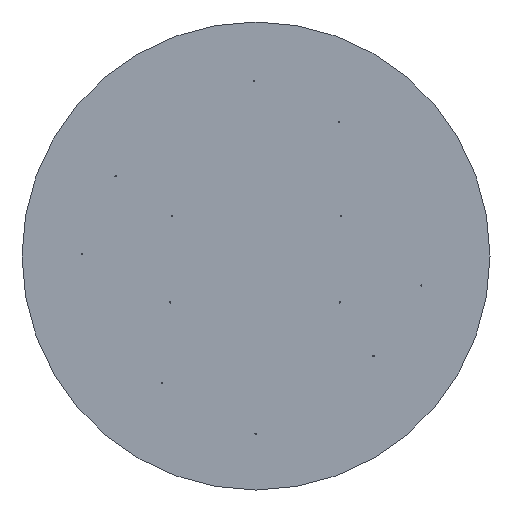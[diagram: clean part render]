
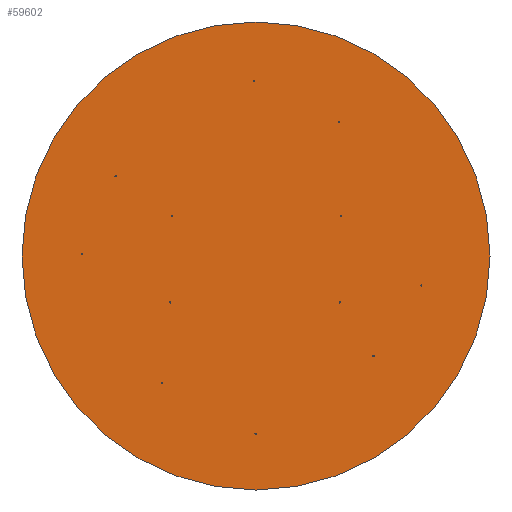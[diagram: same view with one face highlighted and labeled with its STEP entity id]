
A CAD part, front view. The second image highlights one B-rep face of the part: STEP entity #59602.
In plain terms, the highlighted planar face has unit normal (0, -1, 0).
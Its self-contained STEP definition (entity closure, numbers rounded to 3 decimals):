
#350=FACE_BOUND('',#5853,.T.);
#351=FACE_BOUND('',#5854,.T.);
#352=FACE_BOUND('',#5855,.T.);
#353=FACE_BOUND('',#5856,.T.);
#354=FACE_BOUND('',#5857,.T.);
#355=FACE_BOUND('',#5858,.T.);
#356=FACE_BOUND('',#5859,.T.);
#357=FACE_BOUND('',#5860,.T.);
#358=FACE_BOUND('',#5861,.T.);
#359=FACE_BOUND('',#5862,.T.);
#360=FACE_BOUND('',#5863,.T.);
#361=FACE_BOUND('',#5864,.T.);
#557=CIRCLE('',#62417,5.);
#558=CIRCLE('',#62419,5.);
#559=CIRCLE('',#62421,5.);
#560=CIRCLE('',#62423,5.);
#561=CIRCLE('',#62425,5.);
#562=CIRCLE('',#62427,5.);
#563=CIRCLE('',#62429,5.);
#564=CIRCLE('',#62431,5.);
#565=CIRCLE('',#62433,5.);
#566=CIRCLE('',#62435,5.);
#567=CIRCLE('',#62437,5.);
#568=CIRCLE('',#62439,5.);
#576=CIRCLE('',#62805,1975.);
#2884=FACE_OUTER_BOUND('',#5852,.T.);
#5852=EDGE_LOOP('',(#50132));
#5853=EDGE_LOOP('',(#50133));
#5854=EDGE_LOOP('',(#50134));
#5855=EDGE_LOOP('',(#50135));
#5856=EDGE_LOOP('',(#50136));
#5857=EDGE_LOOP('',(#50137));
#5858=EDGE_LOOP('',(#50138));
#5859=EDGE_LOOP('',(#50139));
#5860=EDGE_LOOP('',(#50140));
#5861=EDGE_LOOP('',(#50141));
#5862=EDGE_LOOP('',(#50142));
#5863=EDGE_LOOP('',(#50143));
#5864=EDGE_LOOP('',(#50144));
#26974=VERTEX_POINT('',#89207);
#26975=VERTEX_POINT('',#89211);
#26976=VERTEX_POINT('',#89215);
#26977=VERTEX_POINT('',#89219);
#26978=VERTEX_POINT('',#89223);
#26979=VERTEX_POINT('',#89227);
#26980=VERTEX_POINT('',#89231);
#26981=VERTEX_POINT('',#89235);
#26982=VERTEX_POINT('',#89239);
#26983=VERTEX_POINT('',#89243);
#26984=VERTEX_POINT('',#89247);
#26985=VERTEX_POINT('',#89251);
#27339=VERTEX_POINT('',#90671);
#34465=EDGE_CURVE('',#26974,#26974,#557,.T.);
#34467=EDGE_CURVE('',#26975,#26975,#558,.T.);
#34469=EDGE_CURVE('',#26976,#26976,#559,.T.);
#34471=EDGE_CURVE('',#26977,#26977,#560,.T.);
#34473=EDGE_CURVE('',#26978,#26978,#561,.T.);
#34475=EDGE_CURVE('',#26979,#26979,#562,.T.);
#34477=EDGE_CURVE('',#26980,#26980,#563,.T.);
#34479=EDGE_CURVE('',#26981,#26981,#564,.T.);
#34481=EDGE_CURVE('',#26982,#26982,#565,.T.);
#34483=EDGE_CURVE('',#26983,#26983,#566,.T.);
#34485=EDGE_CURVE('',#26984,#26984,#567,.T.);
#34487=EDGE_CURVE('',#26985,#26985,#568,.T.);
#35194=EDGE_CURVE('',#27339,#27339,#576,.T.);
#50132=ORIENTED_EDGE('',*,*,#35194,.T.);
#50133=ORIENTED_EDGE('',*,*,#34465,.T.);
#50134=ORIENTED_EDGE('',*,*,#34467,.T.);
#50135=ORIENTED_EDGE('',*,*,#34469,.T.);
#50136=ORIENTED_EDGE('',*,*,#34471,.T.);
#50137=ORIENTED_EDGE('',*,*,#34473,.T.);
#50138=ORIENTED_EDGE('',*,*,#34475,.T.);
#50139=ORIENTED_EDGE('',*,*,#34477,.T.);
#50140=ORIENTED_EDGE('',*,*,#34479,.T.);
#50141=ORIENTED_EDGE('',*,*,#34481,.T.);
#50142=ORIENTED_EDGE('',*,*,#34483,.T.);
#50143=ORIENTED_EDGE('',*,*,#34485,.T.);
#50144=ORIENTED_EDGE('',*,*,#34487,.T.);
#56775=PLANE('',#62807);
#59602=ADVANCED_FACE('',(#2884,#350,#351,#352,#353,#354,#355,#356,#357,
#358,#359,#360,#361),#56775,.F.);
#62417=AXIS2_PLACEMENT_3D('',#89209,#72889,#72890);
#62419=AXIS2_PLACEMENT_3D('',#89213,#72894,#72895);
#62421=AXIS2_PLACEMENT_3D('',#89217,#72899,#72900);
#62423=AXIS2_PLACEMENT_3D('',#89221,#72904,#72905);
#62425=AXIS2_PLACEMENT_3D('',#89225,#72909,#72910);
#62427=AXIS2_PLACEMENT_3D('',#89229,#72914,#72915);
#62429=AXIS2_PLACEMENT_3D('',#89233,#72919,#72920);
#62431=AXIS2_PLACEMENT_3D('',#89237,#72924,#72925);
#62433=AXIS2_PLACEMENT_3D('',#89241,#72929,#72930);
#62435=AXIS2_PLACEMENT_3D('',#89245,#72934,#72935);
#62437=AXIS2_PLACEMENT_3D('',#89249,#72939,#72940);
#62439=AXIS2_PLACEMENT_3D('',#89253,#72944,#72945);
#62805=AXIS2_PLACEMENT_3D('',#90672,#74375,#74376);
#62807=AXIS2_PLACEMENT_3D('',#90675,#74380,#74381);
#72889=DIRECTION('center_axis',(0.,1.,0.));
#72890=DIRECTION('ref_axis',(1.,0.,0.));
#72894=DIRECTION('center_axis',(0.,1.,0.));
#72895=DIRECTION('ref_axis',(1.,0.,0.));
#72899=DIRECTION('center_axis',(0.,1.,0.));
#72900=DIRECTION('ref_axis',(1.,0.,0.));
#72904=DIRECTION('center_axis',(0.,1.,0.));
#72905=DIRECTION('ref_axis',(1.,0.,0.));
#72909=DIRECTION('center_axis',(0.,1.,0.));
#72910=DIRECTION('ref_axis',(1.,0.,0.));
#72914=DIRECTION('center_axis',(0.,1.,0.));
#72915=DIRECTION('ref_axis',(1.,0.,0.));
#72919=DIRECTION('center_axis',(0.,1.,0.));
#72920=DIRECTION('ref_axis',(1.,0.,0.));
#72924=DIRECTION('center_axis',(0.,1.,0.));
#72925=DIRECTION('ref_axis',(1.,0.,0.));
#72929=DIRECTION('center_axis',(0.,1.,0.));
#72930=DIRECTION('ref_axis',(1.,0.,0.));
#72934=DIRECTION('center_axis',(0.,1.,0.));
#72935=DIRECTION('ref_axis',(1.,0.,0.));
#72939=DIRECTION('center_axis',(0.,1.,0.));
#72940=DIRECTION('ref_axis',(1.,0.,0.));
#72944=DIRECTION('center_axis',(0.,1.,0.));
#72945=DIRECTION('ref_axis',(1.,0.,0.));
#74375=DIRECTION('center_axis',(0.,-1.,0.));
#74376=DIRECTION('ref_axis',(-1.,0.,0.));
#74380=DIRECTION('center_axis',(0.,1.,0.));
#74381=DIRECTION('ref_axis',(0.,0.,1.));
#89207=CARTESIAN_POINT('',(-5879.856,-100.,4001.104));
#89209=CARTESIAN_POINT('Origin',(-5874.856,-100.,4001.104));
#89211=CARTESIAN_POINT('',(-5086.737,-100.,3574.396));
#89213=CARTESIAN_POINT('Origin',(-5081.737,-100.,3574.396));
#89215=CARTESIAN_POINT('',(-6554.998,-100.,5089.858));
#89217=CARTESIAN_POINT('Origin',(-6549.998,-100.,5089.858));
#89219=CARTESIAN_POINT('',(-6268.672,-100.,5748.409));
#89221=CARTESIAN_POINT('Origin',(-6263.672,-100.,5748.409));
#89223=CARTESIAN_POINT('',(-5101.985,-100.,6550.15));
#89225=CARTESIAN_POINT('Origin',(-5096.985,-100.,6550.15));
#89227=CARTESIAN_POINT('',(-4385.004,-100.,6206.509));
#89229=CARTESIAN_POINT('Origin',(-4380.004,-100.,6206.509));
#89231=CARTESIAN_POINT('',(-4091.567,-100.,4230.743));
#89233=CARTESIAN_POINT('Origin',(-4086.567,-100.,4230.743));
#89235=CARTESIAN_POINT('',(-3687.234,-100.,4824.762));
#89237=CARTESIAN_POINT('Origin',(-3682.234,-100.,4824.762));
#89239=CARTESIAN_POINT('',(-5791.661,-100.,5410.096));
#89241=CARTESIAN_POINT('Origin',(-5786.661,-100.,5410.096));
#89243=CARTESIAN_POINT('',(-4368.252,-100.,5410.096));
#89245=CARTESIAN_POINT('Origin',(-4363.252,-100.,5410.096));
#89247=CARTESIAN_POINT('',(-5805.894,-100.,4682.549));
#89249=CARTESIAN_POINT('Origin',(-5800.894,-100.,4682.549));
#89251=CARTESIAN_POINT('',(-4375.126,-100.,4682.549));
#89253=CARTESIAN_POINT('Origin',(-4370.126,-100.,4682.549));
#90671=CARTESIAN_POINT('',(-3103.283,-100.,5074.289));
#90672=CARTESIAN_POINT('Origin',(-5078.283,-100.,5074.289));
#90675=CARTESIAN_POINT('Origin',(-5078.283,-100.,5074.289));
